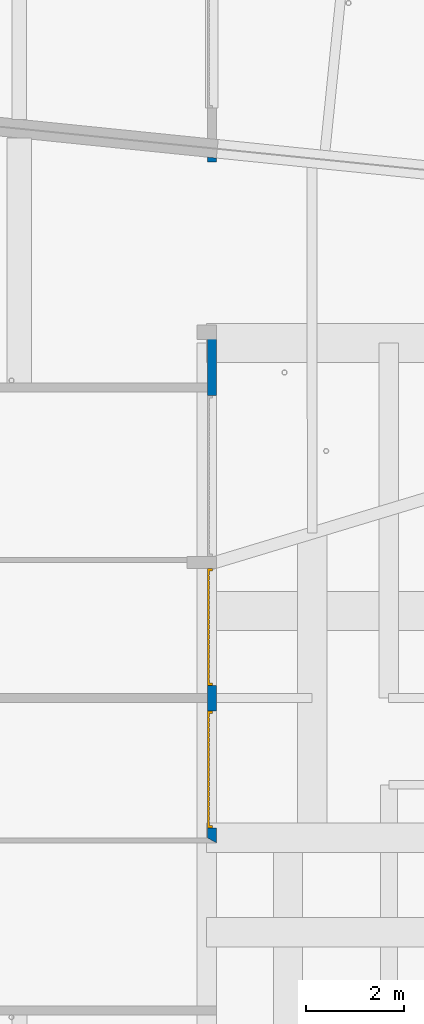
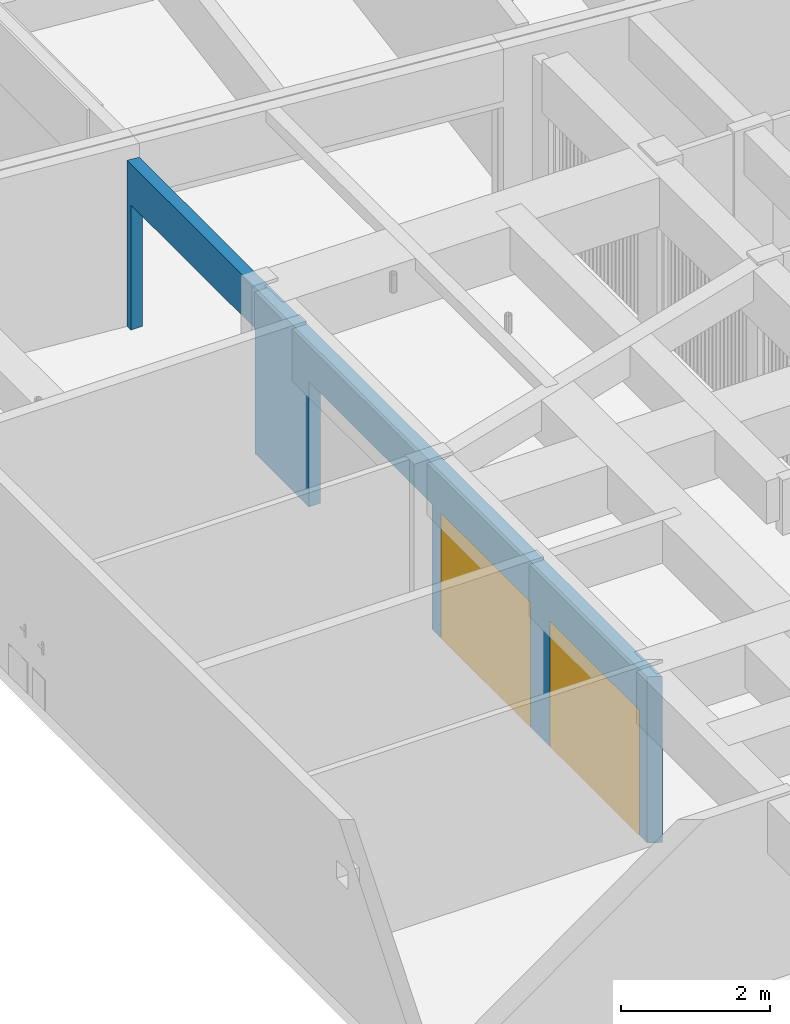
# One storey, part 11 of 41: 2 doors, 1 wall, 4 openings.
"""IFC2X3 building model written with IfcOpenShell, lengths in millimetres."""

from ifc_helpers import new_model, entity, si_unit, converted_unit, derived_unit, money_unit, direction, frame, origin_with_axes, origin_2d_with_axis, place, context, subcontext, project, spatial, polyline, rectangle, outline, extrude, faceted_brep, source, transform, mapped, material, layer, layer_set, layer_usage, type_object, element, fill, save


model = new_model("IFC2X3")

# Units and contexts
model_context = context("Model", 3, precision=0.01, world=origin_with_axes(), true_north=direction((0.0, 1.0)))
body_context = subcontext(model_context, "Body", "Model", "MODEL_VIEW")
ifc_project = project(units=[si_unit("LENGTHUNIT", "METRE", prefix="MILLI"), si_unit("AREAUNIT", "SQUARE_METRE"), si_unit("VOLUMEUNIT", "CUBIC_METRE"), converted_unit("PLANEANGLEUNIT", "DEGREE", entity("IfcPlaneAngleMeasure", 0.0174532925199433), si_unit("PLANEANGLEUNIT", "RADIAN"), dimensions=[0, 0, 0, 0, 0, 0, 0]), money_unit("USD"), converted_unit("TIMEUNIT", "Year", entity("IfcTimeMeasure", 31557600.0), si_unit("TIMEUNIT", "SECOND"), dimensions=[0, 0, 1, 0, 0, 0, 0]), si_unit("MASSUNIT", "GRAM", prefix="KILO"), si_unit("THERMODYNAMICTEMPERATUREUNIT", "DEGREE_CELSIUS"), si_unit("LUMINOUSINTENSITYUNIT", "LUMEN"), si_unit("ENERGYUNIT", "JOULE", prefix="MEGA"), derived_unit("THERMALCONDUCTANCEUNIT", [(si_unit("POWERUNIT", "WATT"), 1), (si_unit("LENGTHUNIT", "METRE"), -1), (si_unit("THERMODYNAMICTEMPERATUREUNIT", "KELVIN"), -1)]), derived_unit("SPECIFICHEATCAPACITYUNIT", [(si_unit("ENERGYUNIT", "JOULE"), 1), (si_unit("MASSUNIT", "GRAM", prefix="KILO"), -1), (si_unit("THERMODYNAMICTEMPERATUREUNIT", "KELVIN"), -1)]), derived_unit("MASSDENSITYUNIT", [(si_unit("MASSUNIT", "GRAM", prefix="KILO"), 1), (si_unit("VOLUMEUNIT", "CUBIC_METRE"), -1)])], contexts=[model_context])

# Site, building, storey
site_placement = place(None, origin_with_axes())
site = spatial("IfcSite", under=ifc_project, at=site_placement, Name="Site", CompositionType="ELEMENT")
building_placement = place(site_placement, origin_with_axes())
building = spatial("IfcBuilding", under=site, at=building_placement, Name="Bâtiment", CompositionType="ELEMENT")
storey_placement = place(building_placement, origin_with_axes())
storey = spatial("IfcBuildingStorey", under=building, at=storey_placement, Name="sousol", CompositionType="ELEMENT", Elevation=0.0)

# Wall, openings, doors
ifc_material = material(Name="Parpaing 314940890")
ifc_layer = layer(ifc_material, 180.0, ventilated="UNKNOWN")
ifc_layer_set = layer_set([ifc_layer], Name="Beton  18 0170347028")
ifc_layer_usage = layer_usage(ifc_layer_set, "AXIS2", "NEGATIVE", 0.0)
wall_type = type_object("IfcWallType", Name="Beton  18 0170347028 180", PredefinedType="NOTDEFINED")
wall_placement = place(storey_placement, frame((2222264.233344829, -621462.5328940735, 0.0), z_axis=(0.0, 0.0, 1.0), x_axis=(0.0, -1.0, 0.0)))
wall = element("IfcWallStandardCase", 1, at=wall_placement, inside=storey, type_object=wall_type, material=ifc_layer_usage, Name="Mur-133", context=body_context, shape_type="SweptSolid", body=[
    extrude(outline(polyline([(-18.29231084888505, -179.99999999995), (13931.14654136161, -179.99999999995), (14031.14654136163, 0.0), (0.0, 0.0), (-18.29231084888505, -179.99999999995)])), origin_with_axes(), (0.0, 0.0, 1.0), 2719.999999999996),
])
opening_1_placement = place(wall_placement, frame((12525.68746920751, 2.046363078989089e-09, 0.0), z_axis=(0.0, 0.0, 1.0), x_axis=(1.0, 0.0, 0.0)))
opening_1 = element("IfcOpeningElement", 2, at=opening_1_placement, cuts=wall, Name="Por-296", context=body_context, shape_type="SweptSolid", body=[
    extrude(rectangle(XDim=2400.000000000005, YDim=2050.0, at=origin_2d_with_axis()), frame((0.0, -180.0000000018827, 1025.0), z_axis=(0.0, 1.0, 0.0), x_axis=(1.0, 0.0, 0.0)), (0.0, 0.0, -1.0), 180.0),
    extrude(rectangle(XDim=2400.000000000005, YDim=2050.0, at=origin_2d_with_axis()), frame((0.0, -180.0000000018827, 1025.0), z_axis=(0.0, -1.0, 0.0), x_axis=(1.0, 0.0, 0.0)), (0.0, 0.0, -1.0), 180.0),
])
opening_2_placement = place(wall_placement, frame((6511.917336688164, 1.13686837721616e-09, 0.0), z_axis=(0.0, 0.0, 1.0), x_axis=(1.0, 0.0, 0.0)))
element("IfcOpeningElement", 3, at=opening_2_placement, cuts=wall, Name="Por-296", context=body_context, shape_type="SweptSolid", body=[
    extrude(rectangle(XDim=3299.999999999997, YDim=2050.0, at=origin_2d_with_axis()), frame((0.0, -180.0000000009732, 1025.0), z_axis=(0.0, 1.0, 0.0), x_axis=(1.0, 0.0, 0.0)), (0.0, 0.0, -1.0), 180.0),
    extrude(rectangle(XDim=3299.999999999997, YDim=2050.0, at=origin_2d_with_axis()), frame((0.0, -180.0000000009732, 1025.0), z_axis=(0.0, -1.0, 0.0), x_axis=(1.0, 0.0, 0.0)), (0.0, 0.0, -1.0), 180.0),
])
opening_3_placement = place(wall_placement, frame((9610.427612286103, 1.591615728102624e-09, 0.0), z_axis=(0.0, 0.0, 1.0), x_axis=(1.0, 0.0, 0.0)))
opening_3 = element("IfcOpeningElement", 4, at=opening_3_placement, cuts=wall, Name="Por-296", context=body_context, shape_type="SweptSolid", body=[
    extrude(rectangle(XDim=2400.000000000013, YDim=2050.0, at=origin_2d_with_axis()), frame((0.0, -180.0000000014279, 1025.0), z_axis=(0.0, 1.0, 0.0), x_axis=(1.0, 0.0, 0.0)), (0.0, 0.0, -1.0), 180.0),
    extrude(rectangle(XDim=2400.000000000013, YDim=2050.0, at=origin_2d_with_axis()), frame((0.0, -180.0000000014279, 1025.0), z_axis=(0.0, -1.0, 0.0), x_axis=(1.0, 0.0, 0.0)), (0.0, 0.0, -1.0), 180.0),
])
opening_4_placement = place(wall_placement, frame((1751.217755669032, 3.410605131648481e-10, 0.0), z_axis=(0.0, 0.0, 1.0), x_axis=(1.0, 0.0, 0.0)))
element("IfcOpeningElement", 5, at=opening_4_placement, cuts=wall, Name="Por-296", context=body_context, shape_type="SweptSolid", body=[
    extrude(rectangle(XDim=3337.990043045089, YDim=2050.0, at=origin_2d_with_axis()), frame((0.0, -180.0000000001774, 1025.0), z_axis=(0.0, 1.0, 0.0), x_axis=(1.0, 0.0, 0.0)), (0.0, 0.0, -1.0), 180.0),
    extrude(rectangle(XDim=3337.990043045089, YDim=2050.0, at=origin_2d_with_axis()), frame((0.0, -180.0000000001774, 1025.0), z_axis=(0.0, -1.0, 0.0), x_axis=(1.0, 0.0, 0.0)), (0.0, 0.0, -1.0), 180.0),
])
door_style = type_object("IfcDoorStyle", Name="P_garage 1", ConstructionType="NOTDEFINED", OperationType="NOTDEFINED", ParameterTakesPrecedence=False, Sizeable=False)
shared_shape = source(origin_with_axes(), body_context, "Body", "Brep", [
    faceted_brep([(-1200.0, 0.0, 0.0), (-1150.0, 0.0, 0.0), (-1150.0, -100.0, 0.0), (-1200.0, -100.0, 0.0), (-1200.0, 0.0, 2050.0), (1200.0, 0.0, 2050.0), (1200.0, 0.0, 0.0), (1150.0, 0.0, 0.0), (1150.0, 0.0, 2000.0), (-1150.0, 0.0, 2000.0), (-1150.0, -100.0, 2000.0), (1150.0, -100.0, 2000.0), (1150.0, -100.0, 0.0), (1200.0, -100.0, 0.0), (1200.0, -100.0, 2050.0), (-1200.0, -100.0, 2050.0)], [[[0, 1, 2, 3]], [[0, 4, 5, 6, 7, 8, 9, 1]], [[1, 9, 10, 2]], [[3, 2, 10, 11, 12, 13, 14, 15]], [[4, 0, 3, 15]], [[5, 4, 15, 14]], [[6, 5, 14, 13]], [[7, 6, 13, 12]], [[8, 7, 12, 11]], [[9, 8, 11, 10]]]),
    faceted_brep([(-1069.130434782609, -40.0, 0.0), (-1069.130434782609, -26.66666666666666, 0.0), (-1069.130434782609, -26.66666666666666, 2000.0), (-1069.130434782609, -40.0, 2000.0), (-1150.0, -40.0, 0.0), (-1150.0, -26.66666666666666, 0.0), (-1150.0, -26.66666666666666, 2000.0), (-1150.0, -40.0, 2000.0)], [[[0, 1, 2, 3]], [[4, 5, 1, 0]], [[1, 5, 6, 2]], [[3, 2, 6, 7]], [[0, 3, 7, 4]], [[7, 6, 5, 4]]]),
    faceted_brep([(-968.2608695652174, -40.0, 0.0), (-968.2608695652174, -26.66666666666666, 0.0), (-968.2608695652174, -26.66666666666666, 2000.0), (-968.2608695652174, -40.0, 2000.0), (-1049.130434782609, -40.0, 0.0), (-1049.130434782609, -26.66666666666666, 0.0), (-1049.130434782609, -26.66666666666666, 2000.0), (-1049.130434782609, -40.0, 2000.0)], [[[0, 1, 2, 3]], [[4, 5, 1, 0]], [[1, 5, 6, 2]], [[3, 2, 6, 7]], [[0, 3, 7, 4]], [[7, 6, 5, 4]]]),
    faceted_brep([(-867.3913043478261, -40.0, 0.0), (-867.3913043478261, -26.66666666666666, 0.0), (-867.3913043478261, -26.66666666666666, 2000.0), (-867.3913043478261, -40.0, 2000.0), (-948.2608695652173, -40.0, 0.0), (-948.2608695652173, -26.66666666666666, 0.0), (-948.2608695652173, -26.66666666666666, 2000.0), (-948.2608695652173, -40.0, 2000.0)], [[[0, 1, 2, 3]], [[4, 5, 1, 0]], [[1, 5, 6, 2]], [[3, 2, 6, 7]], [[0, 3, 7, 4]], [[7, 6, 5, 4]]]),
    faceted_brep([(-766.5217391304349, -40.0, 0.0), (-766.5217391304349, -26.66666666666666, 0.0), (-766.5217391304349, -26.66666666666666, 2000.0), (-766.5217391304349, -40.0, 2000.0), (-847.391304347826, -40.0, 0.0), (-847.391304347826, -26.66666666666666, 0.0), (-847.391304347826, -26.66666666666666, 2000.0), (-847.391304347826, -40.0, 2000.0)], [[[0, 1, 2, 3]], [[4, 5, 1, 0]], [[1, 5, 6, 2]], [[3, 2, 6, 7]], [[0, 3, 7, 4]], [[7, 6, 5, 4]]]),
    faceted_brep([(-665.6521739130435, -40.0, 0.0), (-665.6521739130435, -26.66666666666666, 0.0), (-665.6521739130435, -26.66666666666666, 2000.0), (-665.6521739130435, -40.0, 2000.0), (-746.5217391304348, -40.0, 0.0), (-746.5217391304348, -26.66666666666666, 0.0), (-746.5217391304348, -26.66666666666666, 2000.0), (-746.5217391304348, -40.0, 2000.0)], [[[0, 1, 2, 3]], [[4, 5, 1, 0]], [[1, 5, 6, 2]], [[3, 2, 6, 7]], [[0, 3, 7, 4]], [[7, 6, 5, 4]]]),
    faceted_brep([(-564.7826086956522, -40.0, 0.0), (-564.7826086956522, -26.66666666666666, 0.0), (-564.7826086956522, -26.66666666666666, 2000.0), (-564.7826086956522, -40.0, 2000.0), (-645.6521739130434, -40.0, 0.0), (-645.6521739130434, -26.66666666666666, 0.0), (-645.6521739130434, -26.66666666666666, 2000.0), (-645.6521739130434, -40.0, 2000.0)], [[[0, 1, 2, 3]], [[4, 5, 1, 0]], [[1, 5, 6, 2]], [[3, 2, 6, 7]], [[0, 3, 7, 4]], [[7, 6, 5, 4]]]),
    faceted_brep([(-463.9130434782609, -40.0, 0.0), (-463.9130434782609, -26.66666666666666, 0.0), (-463.9130434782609, -26.66666666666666, 2000.0), (-463.9130434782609, -40.0, 2000.0), (-544.7826086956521, -40.0, 0.0), (-544.7826086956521, -26.66666666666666, 0.0), (-544.7826086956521, -26.66666666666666, 2000.0), (-544.7826086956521, -40.0, 2000.0)], [[[0, 1, 2, 3]], [[4, 5, 1, 0]], [[1, 5, 6, 2]], [[3, 2, 6, 7]], [[0, 3, 7, 4]], [[7, 6, 5, 4]]]),
    faceted_brep([(-363.0434782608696, -40.0, 0.0), (-363.0434782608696, -26.66666666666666, 0.0), (-363.0434782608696, -26.66666666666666, 2000.0), (-363.0434782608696, -40.0, 2000.0), (-443.9130434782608, -40.0, 0.0), (-443.9130434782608, -26.66666666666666, 0.0), (-443.9130434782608, -26.66666666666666, 2000.0), (-443.9130434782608, -40.0, 2000.0)], [[[0, 1, 2, 3]], [[4, 5, 1, 0]], [[1, 5, 6, 2]], [[3, 2, 6, 7]], [[0, 3, 7, 4]], [[7, 6, 5, 4]]]),
    faceted_brep([(-262.1739130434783, -40.0, 0.0), (-262.1739130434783, -26.66666666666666, 0.0), (-262.1739130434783, -26.66666666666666, 2000.0), (-262.1739130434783, -40.0, 2000.0), (-343.0434782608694, -40.0, 0.0), (-343.0434782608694, -26.66666666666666, 0.0), (-343.0434782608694, -26.66666666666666, 2000.0), (-343.0434782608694, -40.0, 2000.0)], [[[0, 1, 2, 3]], [[4, 5, 1, 0]], [[1, 5, 6, 2]], [[3, 2, 6, 7]], [[0, 3, 7, 4]], [[7, 6, 5, 4]]]),
    faceted_brep([(-161.3043478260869, -40.0, 0.0), (-161.3043478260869, -26.66666666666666, 0.0), (-161.3043478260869, -26.66666666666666, 2000.0), (-161.3043478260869, -40.0, 2000.0), (-242.1739130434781, -40.0, 0.0), (-242.1739130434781, -26.66666666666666, 0.0), (-242.1739130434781, -26.66666666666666, 2000.0), (-242.1739130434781, -40.0, 2000.0)], [[[0, 1, 2, 3]], [[4, 5, 1, 0]], [[1, 5, 6, 2]], [[3, 2, 6, 7]], [[0, 3, 7, 4]], [[7, 6, 5, 4]]]),
    faceted_brep([(-60.43478260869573, -40.0, 0.0), (-60.43478260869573, -26.66666666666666, 0.0), (-60.43478260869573, -26.66666666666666, 2000.0), (-60.43478260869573, -40.0, 2000.0), (-141.3043478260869, -40.0, 0.0), (-141.3043478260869, -26.66666666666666, 0.0), (-141.3043478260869, -26.66666666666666, 2000.0), (-141.3043478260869, -40.0, 2000.0)], [[[0, 1, 2, 3]], [[4, 5, 1, 0]], [[1, 5, 6, 2]], [[3, 2, 6, 7]], [[0, 3, 7, 4]], [[7, 6, 5, 4]]]),
    faceted_brep([(40.43478260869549, -40.0, 0.0), (40.43478260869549, -26.66666666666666, 0.0), (40.43478260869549, -26.66666666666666, 2000.0), (40.43478260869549, -40.0, 2000.0), (-40.43478260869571, -40.0, 0.0), (-40.43478260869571, -26.66666666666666, 0.0), (-40.43478260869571, -26.66666666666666, 2000.0), (-40.43478260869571, -40.0, 2000.0)], [[[0, 1, 2, 3]], [[4, 5, 1, 0]], [[1, 5, 6, 2]], [[3, 2, 6, 7]], [[0, 3, 7, 4]], [[7, 6, 5, 4]]]),
    faceted_brep([(141.3043478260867, -40.0, 0.0), (141.3043478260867, -26.66666666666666, 0.0), (141.3043478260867, -26.66666666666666, 2000.0), (141.3043478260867, -40.0, 2000.0), (60.4347826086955, -40.0, 0.0), (60.4347826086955, -26.66666666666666, 0.0), (60.4347826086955, -26.66666666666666, 2000.0), (60.4347826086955, -40.0, 2000.0)], [[[0, 1, 2, 3]], [[4, 5, 1, 0]], [[1, 5, 6, 2]], [[3, 2, 6, 7]], [[0, 3, 7, 4]], [[7, 6, 5, 4]]]),
    faceted_brep([(242.1739130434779, -40.0, 0.0), (242.1739130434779, -26.66666666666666, 0.0), (242.1739130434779, -26.66666666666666, 2000.0), (242.1739130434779, -40.0, 2000.0), (161.3043478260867, -40.0, 0.0), (161.3043478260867, -26.66666666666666, 0.0), (161.3043478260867, -26.66666666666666, 2000.0), (161.3043478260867, -40.0, 2000.0)], [[[0, 1, 2, 3]], [[4, 5, 1, 0]], [[1, 5, 6, 2]], [[3, 2, 6, 7]], [[0, 3, 7, 4]], [[7, 6, 5, 4]]]),
    faceted_brep([(343.0434782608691, -40.0, 0.0), (343.0434782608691, -26.66666666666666, 0.0), (343.0434782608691, -26.66666666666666, 2000.0), (343.0434782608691, -40.0, 2000.0), (262.1739130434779, -40.0, 0.0), (262.1739130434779, -26.66666666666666, 0.0), (262.1739130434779, -26.66666666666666, 2000.0), (262.1739130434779, -40.0, 2000.0)], [[[0, 1, 2, 3]], [[4, 5, 1, 0]], [[1, 5, 6, 2]], [[3, 2, 6, 7]], [[0, 3, 7, 4]], [[7, 6, 5, 4]]]),
    faceted_brep([(443.9130434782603, -40.0, 0.0), (443.9130434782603, -26.66666666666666, 0.0), (443.9130434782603, -26.66666666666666, 2000.0), (443.9130434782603, -40.0, 2000.0), (363.0434782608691, -40.0, 0.0), (363.0434782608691, -26.66666666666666, 0.0), (363.0434782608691, -26.66666666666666, 2000.0), (363.0434782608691, -40.0, 2000.0)], [[[0, 1, 2, 3]], [[4, 5, 1, 0]], [[1, 5, 6, 2]], [[3, 2, 6, 7]], [[0, 3, 7, 4]], [[7, 6, 5, 4]]]),
    faceted_brep([(544.7826086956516, -40.0, 0.0), (544.7826086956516, -26.66666666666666, 0.0), (544.7826086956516, -26.66666666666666, 2000.0), (544.7826086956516, -40.0, 2000.0), (463.9130434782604, -40.0, 0.0), (463.9130434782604, -26.66666666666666, 0.0), (463.9130434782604, -26.66666666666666, 2000.0), (463.9130434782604, -40.0, 2000.0)], [[[0, 1, 2, 3]], [[4, 5, 1, 0]], [[1, 5, 6, 2]], [[3, 2, 6, 7]], [[0, 3, 7, 4]], [[7, 6, 5, 4]]]),
    faceted_brep([(645.6521739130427, -40.0, 0.0), (645.6521739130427, -26.66666666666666, 0.0), (645.6521739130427, -26.66666666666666, 2000.0), (645.6521739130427, -40.0, 2000.0), (564.7826086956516, -40.0, 0.0), (564.7826086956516, -26.66666666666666, 0.0), (564.7826086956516, -26.66666666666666, 2000.0), (564.7826086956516, -40.0, 2000.0)], [[[0, 1, 2, 3]], [[4, 5, 1, 0]], [[1, 5, 6, 2]], [[3, 2, 6, 7]], [[0, 3, 7, 4]], [[7, 6, 5, 4]]]),
    faceted_brep([(746.521739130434, -40.0, 0.0), (746.521739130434, -26.66666666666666, 0.0), (746.521739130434, -26.66666666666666, 2000.0), (746.521739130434, -40.0, 2000.0), (665.6521739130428, -40.0, 0.0), (665.6521739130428, -26.66666666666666, 0.0), (665.6521739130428, -26.66666666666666, 2000.0), (665.6521739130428, -40.0, 2000.0)], [[[0, 1, 2, 3]], [[4, 5, 1, 0]], [[1, 5, 6, 2]], [[3, 2, 6, 7]], [[0, 3, 7, 4]], [[7, 6, 5, 4]]]),
    faceted_brep([(847.3913043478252, -40.0, 0.0), (847.3913043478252, -26.66666666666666, 0.0), (847.3913043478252, -26.66666666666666, 2000.0), (847.3913043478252, -40.0, 2000.0), (766.521739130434, -40.0, 0.0), (766.521739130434, -26.66666666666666, 0.0), (766.521739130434, -26.66666666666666, 2000.0), (766.521739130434, -40.0, 2000.0)], [[[0, 1, 2, 3]], [[4, 5, 1, 0]], [[1, 5, 6, 2]], [[3, 2, 6, 7]], [[0, 3, 7, 4]], [[7, 6, 5, 4]]]),
    faceted_brep([(948.2608695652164, -40.0, 0.0), (948.2608695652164, -26.66666666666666, 0.0), (948.2608695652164, -26.66666666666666, 2000.0), (948.2608695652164, -40.0, 2000.0), (867.3913043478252, -40.0, 0.0), (867.3913043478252, -26.66666666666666, 0.0), (867.3913043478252, -26.66666666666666, 2000.0), (867.3913043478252, -40.0, 2000.0)], [[[0, 1, 2, 3]], [[4, 5, 1, 0]], [[1, 5, 6, 2]], [[3, 2, 6, 7]], [[0, 3, 7, 4]], [[7, 6, 5, 4]]]),
    faceted_brep([(1049.130434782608, -40.0, 0.0), (1049.130434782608, -26.66666666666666, 0.0), (1049.130434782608, -26.66666666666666, 2000.0), (1049.130434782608, -40.0, 2000.0), (968.2608695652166, -40.0, 0.0), (968.2608695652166, -26.66666666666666, 0.0), (968.2608695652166, -26.66666666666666, 2000.0), (968.2608695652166, -40.0, 2000.0)], [[[0, 1, 2, 3]], [[4, 5, 1, 0]], [[1, 5, 6, 2]], [[3, 2, 6, 7]], [[0, 3, 7, 4]], [[7, 6, 5, 4]]]),
    faceted_brep([(1149.999999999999, -40.0, 0.0), (1149.999999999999, -26.66666666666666, 0.0), (1149.999999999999, -26.66666666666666, 2000.0), (1149.999999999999, -40.0, 2000.0), (1069.130434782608, -40.0, 0.0), (1069.130434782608, -26.66666666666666, 0.0), (1069.130434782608, -26.66666666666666, 2000.0), (1069.130434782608, -40.0, 2000.0)], [[[0, 1, 2, 3]], [[4, 5, 1, 0]], [[1, 5, 6, 2]], [[3, 2, 6, 7]], [[0, 3, 7, 4]], [[7, 6, 5, 4]]]),
    faceted_brep([(-1150.0, -26.66666666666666, 0.0), (-1150.0, 0.0, 0.0), (1150.0, 0.0, 0.0), (1150.0, -26.66666666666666, 0.0), (-1150.0, -26.66666666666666, 2000.0), (-1150.0, 0.0, 2000.0), (1150.0, 0.0, 2000.0), (1150.0, -26.66666666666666, 2000.0)], [[[0, 1, 2, 3]], [[4, 5, 1, 0]], [[1, 5, 6, 2]], [[3, 2, 6, 7]], [[0, 3, 7, 4]], [[7, 6, 5, 4]]]),
])
door_1_placement = place(opening_1_placement, frame((1200.000000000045, 4.547473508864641e-10, 0.0), z_axis=(0.0, 0.0, 1.0), x_axis=(-1.0, 0.0, 0.0)))
door_1 = element("IfcDoor", 6, at=door_1_placement, inside=storey, type_object=door_style, Name="Por-296", OverallHeight=2050.0, OverallWidth=2400.0, context=body_context, shape_type="MappedRepresentation", body=[
    mapped(shared_shape, transform((1200.000000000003, 180.0000000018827, 0.0))),
])
fill(opening_1, door_1)
door_2_placement = place(opening_3_placement, frame((1199.999999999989, 0.0, 0.0), z_axis=(0.0, 0.0, 1.0), x_axis=(-1.0, 0.0, 0.0)))
door_2 = element("IfcDoor", 7, at=door_2_placement, inside=storey, type_object=door_style, Name="Por-296", OverallHeight=2050.0, OverallWidth=2400.0, context=body_context, shape_type="MappedRepresentation", body=[
    mapped(shared_shape, transform((1200.000000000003, 180.0000000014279, 0.0))),
])
fill(opening_3, door_2)

save(model, "model.ifc")
